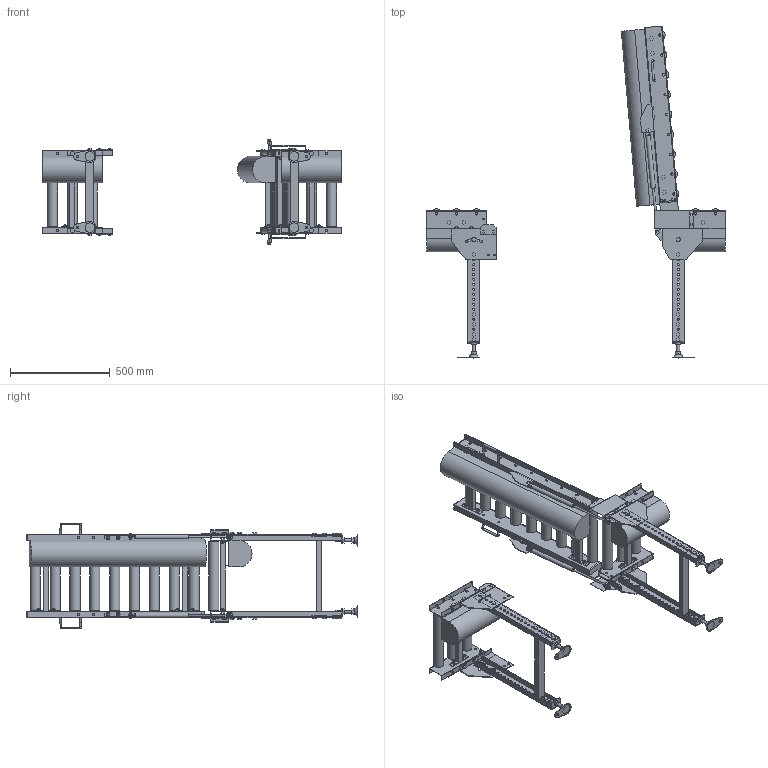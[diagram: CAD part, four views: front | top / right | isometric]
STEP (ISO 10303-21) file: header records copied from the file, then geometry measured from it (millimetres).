
FILE_DESCRIPTION (( 'STEP AP214' ), '1' );
FILE_NAME ('MCD50HU-L-355-100-900.STEP', '2022-11-17T08:08:59', ( '' ), ( '' ), 'SwSTEP 2.0', 'SolidWorks 2017', '' );
FILE_SCHEMA (( 'AUTOMOTIVE_DESIGN' ));
Length unit declared in the file: millimetre
Products named in the file (1): MCD50HU-L-355-100-900
Bounding box: 1500 x 1665.85 x 531.39 mm (x, y, z)
Volume: 36445590.6 mm3; surface area: 3904427 mm2
Topology: 5 solids, 31 shells, 2554 faces, 6325 edges, 4025 vertices
Faces by surface type: plane 2110, cylinder 426, cone 10, torus 8
Full cylindrical faces by diameter (mm): 8 x8, 8.5 x8, 9 x20, 10 x58, 10.5 x96, 11 x8, 12 x32, 13 x12, 14 x4, 15 x6, 15.4 x2, 15.7 x2, 16 x10, 17 x4, 18 x6, 18.4 x28, 18.5 x8, 21 x12, 22 x2, 50.8 x15
Entity records: 73580 total; most frequent: CARTESIAN_POINT 12582, DIRECTION 12284, ORIENTED_EDGE 11584, EDGE_CURVE 5792, VECTOR 4402, LINE 4402, AXIS2_PLACEMENT_3D 3941, VERTEX_POINT 3851
